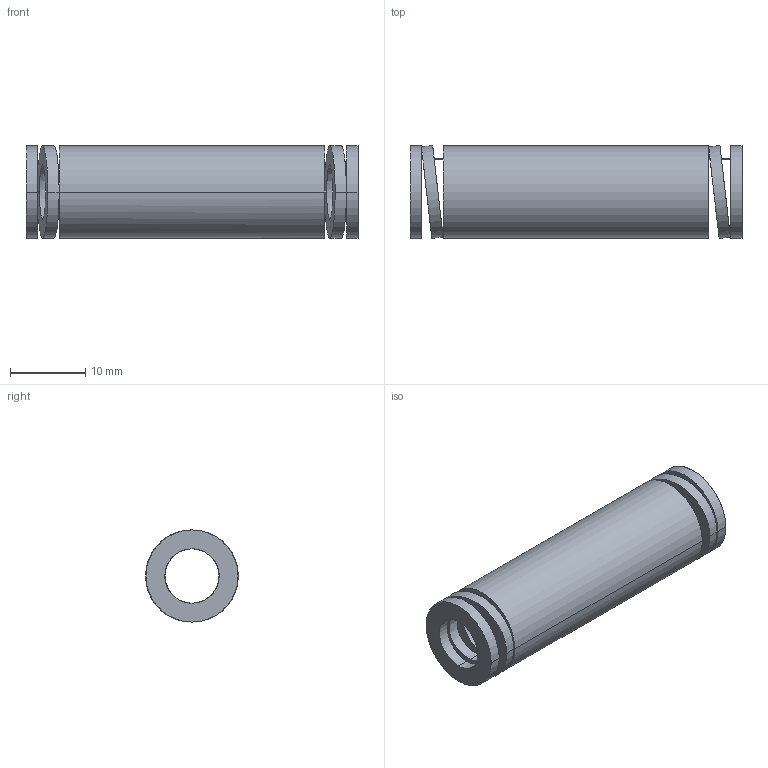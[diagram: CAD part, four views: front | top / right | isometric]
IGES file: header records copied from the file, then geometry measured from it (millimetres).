
Start section: START RECORD GO HERE.
Global section: file name: 392-B13-044.igs; native system: DASSAULT SYSTEMES CATIA V5 R20 - www.3ds.com; preprocessor: CATIA Version 5 Release 20 ; author: Utente; organization: NB04-ASUS; date: 20210812.144853; units: millimetre
Bounding box: 44 x 12.29 x 12.2 mm (x, y, z)
Surface area: 3270.3 mm2 (no closed solid volume)
Topology: 0 solids, 0 shells, 38 faces, 184 edges, 184 vertices
Faces by surface type: revolution 28, plane 10
